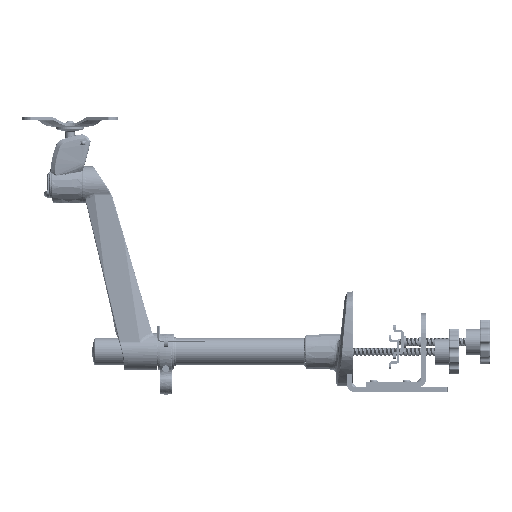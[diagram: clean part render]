
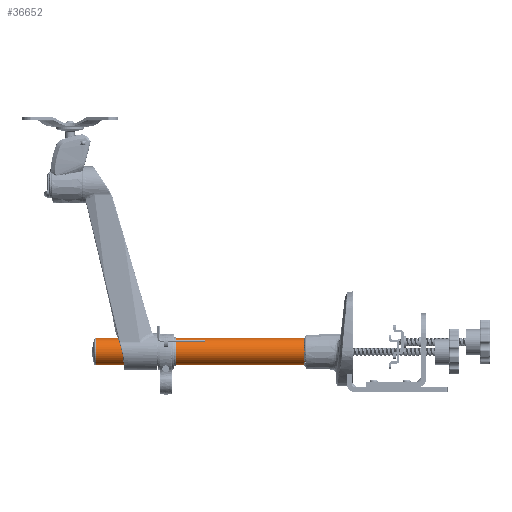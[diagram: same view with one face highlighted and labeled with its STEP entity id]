
A CAD part, left-side view. The second image highlights one B-rep face of the part: STEP entity #36652.
In plain terms, the highlighted cylindrical face has radius 16.75 mm (diameter 33.5 mm), a partial arc.
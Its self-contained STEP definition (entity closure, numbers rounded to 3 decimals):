
#36488=CARTESIAN_POINT('',(0.,302.,0.));
#36489=DIRECTION('',(0.,-1.,0.));
#36490=DIRECTION('',(0.,0.,-1.));
#36491=AXIS2_PLACEMENT_3D('',#36488,#36489,#36490);
#36516=DIRECTION('',(0.,1.,0.));
#36517=VECTOR('',#36516,302.);
#36518=CARTESIAN_POINT('',(0.,0.,-16.75));
#36519=LINE('',#36518,#36517);
#36520=DIRECTION('',(0.,1.,0.));
#36521=VECTOR('',#36520,302.);
#36522=CARTESIAN_POINT('',(0.,0.,16.75));
#36523=LINE('',#36522,#36521);
#36529=CARTESIAN_POINT('',(0.,0.,0.));
#36530=DIRECTION('',(0.,1.,0.));
#36531=DIRECTION('',(0.,0.,1.));
#36532=AXIS2_PLACEMENT_3D('',#36529,#36530,#36531);
#36573=CARTESIAN_POINT('',(0.,302.,16.75));
#36574=CARTESIAN_POINT('',(0.,302.,-16.75));
#36575=VERTEX_POINT('',#36573);
#36576=VERTEX_POINT('',#36574);
#36587=CARTESIAN_POINT('',(0.,0.,16.75));
#36588=VERTEX_POINT('',#36587);
#36589=CARTESIAN_POINT('',(0.,0.,-16.75));
#36590=VERTEX_POINT('',#36589);
#36640=CARTESIAN_POINT('',(0.,302.,0.));
#36641=DIRECTION('',(0.,-1.,0.));
#36642=DIRECTION('',(0.,0.,-1.));
#36643=AXIS2_PLACEMENT_3D('',#36640,#36641,#36642);
#36644=CYLINDRICAL_SURFACE('',#36643,16.75);
#36645=ORIENTED_EDGE('',*,*,#36608,.F.);
#36646=ORIENTED_EDGE('',*,*,#36634,.F.);
#36648=ORIENTED_EDGE('',*,*,#36647,.F.);
#36649=ORIENTED_EDGE('',*,*,#36630,.T.);
#36650=EDGE_LOOP('',(#36645,#36646,#36648,#36649));
#36651=FACE_OUTER_BOUND('',#36650,.F.);
#36652=ADVANCED_FACE('',(#36651),#36644,.T.);
#36492=CIRCLE('',#36491,16.75);
#36533=CIRCLE('',#36532,16.75);
#36608=EDGE_CURVE('',#36576,#36575,#36492,.T.);
#36630=EDGE_CURVE('',#36588,#36575,#36523,.T.);
#36634=EDGE_CURVE('',#36590,#36576,#36519,.T.);
#36647=EDGE_CURVE('',#36588,#36590,#36533,.T.);
